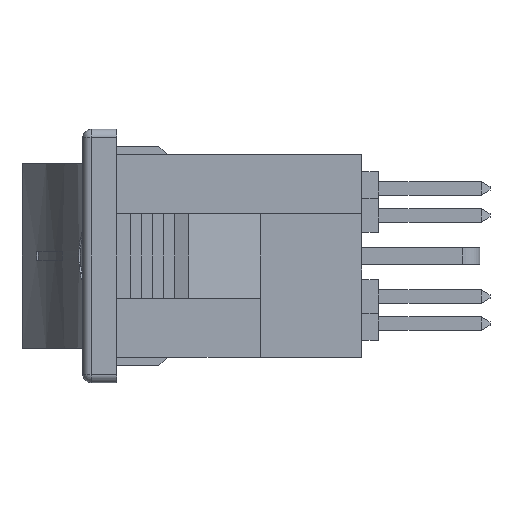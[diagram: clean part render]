
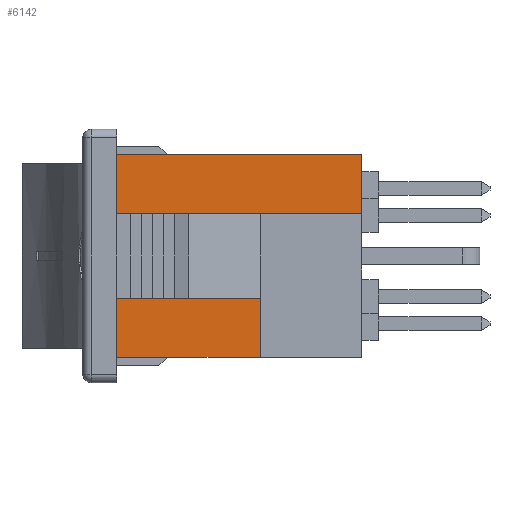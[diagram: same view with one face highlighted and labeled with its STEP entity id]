
A CAD part, left-side view. The second image highlights one B-rep face of the part: STEP entity #6142.
In plain terms, the highlighted planar face has unit normal (-1, 0, 0).
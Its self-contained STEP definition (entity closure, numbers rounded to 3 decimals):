
#288 = DIRECTION ( 'NONE',  ( 0., 0., -1. ) ) ;
#423 = CARTESIAN_POINT ( 'NONE',  ( -8.75, -10.5, -6. ) ) ;
#1098 = CARTESIAN_POINT ( 'NONE',  ( -8.75, -16.5, 2.5 ) ) ;
#1229 = VECTOR ( 'NONE', #16029, 1000. ) ;
#1432 = LINE ( 'NONE', #12261, #15447 ) ;
#2208 = AXIS2_PLACEMENT_3D ( 'NONE', #4011, #8326, #288 ) ;
#2941 = LINE ( 'NONE', #6818, #9941 ) ;
#3012 = EDGE_CURVE ( 'NONE', #16359, #17068, #5866, .T. ) ;
#3243 = LINE ( 'NONE', #3508, #17021 ) ;
#3508 = CARTESIAN_POINT ( 'NONE',  ( -8.75, -16.5, -6. ) ) ;
#3776 = LINE ( 'NONE', #11699, #1229 ) ;
#4011 = CARTESIAN_POINT ( 'NONE',  ( -8.75, -16.5, 6. ) ) ;
#4394 = VERTEX_POINT ( 'NONE', #13346 ) ;
#4561 = ORIENTED_EDGE ( 'NONE', *, *, #4728, .F. ) ;
#4728 = EDGE_CURVE ( 'NONE', #14959, #15237, #10738, .T. ) ;
#5712 = VERTEX_POINT ( 'NONE', #13681 ) ;
#5866 = LINE ( 'NONE', #17219, #11548 ) ;
#6142 = ADVANCED_FACE ( 'NONE', ( #16254 ), #12278, .F. ) ;
#6156 = ORIENTED_EDGE ( 'NONE', *, *, #9409, .F. ) ;
#6417 = DIRECTION ( 'NONE',  ( 0., -1., 0. ) ) ;
#6818 = CARTESIAN_POINT ( 'NONE',  ( -8.75, -2., 6. ) ) ;
#7480 = EDGE_CURVE ( 'NONE', #15237, #5712, #1432, .T. ) ;
#7812 = ORIENTED_EDGE ( 'NONE', *, *, #7480, .F. ) ;
#8313 = ORIENTED_EDGE ( 'NONE', *, *, #3012, .T. ) ;
#8326 = DIRECTION ( 'NONE',  ( 1., 0., 0. ) ) ;
#8622 = DIRECTION ( 'NONE',  ( 0., 0., 1. ) ) ;
#8641 = EDGE_CURVE ( 'NONE', #5712, #17068, #3776, .T. ) ;
#9106 = EDGE_CURVE ( 'NONE', #4394, #15886, #2941, .T. ) ;
#9409 = EDGE_CURVE ( 'NONE', #4394, #14959, #12046, .T. ) ;
#9546 = ORIENTED_EDGE ( 'NONE', *, *, #9106, .T. ) ;
#9941 = VECTOR ( 'NONE', #10703, 1000. ) ;
#10099 = DIRECTION ( 'NONE',  ( 0., -1., 0. ) ) ;
#10571 = DIRECTION ( 'NONE',  ( 0., 0., -1. ) ) ;
#10703 = DIRECTION ( 'NONE',  ( 0., 0., -1. ) ) ;
#10738 = LINE ( 'NONE', #17360, #12408 ) ;
#11548 = VECTOR ( 'NONE', #8622, 1000. ) ;
#11699 = CARTESIAN_POINT ( 'NONE',  ( -8.75, -10.5, 2.5 ) ) ;
#11972 = CARTESIAN_POINT ( 'NONE',  ( -8.75, -16.5, 6. ) ) ;
#12046 = LINE ( 'NONE', #11972, #17289 ) ;
#12261 = CARTESIAN_POINT ( 'NONE',  ( -8.75, -16.5, 2.5 ) ) ;
#12278 = PLANE ( 'NONE',  #2208 ) ;
#12408 = VECTOR ( 'NONE', #10571, 1000. ) ;
#12577 = ORIENTED_EDGE ( 'NONE', *, *, #8641, .F. ) ;
#13346 = CARTESIAN_POINT ( 'NONE',  ( -8.75, -2., 6. ) ) ;
#13364 = ORIENTED_EDGE ( 'NONE', *, *, #13917, .T. ) ;
#13560 = CARTESIAN_POINT ( 'NONE',  ( -8.75, -16.5, 6. ) ) ;
#13681 = CARTESIAN_POINT ( 'NONE',  ( -8.75, -10.5, 2.5 ) ) ;
#13687 = DIRECTION ( 'NONE',  ( 0., 1., 0. ) ) ;
#13917 = EDGE_CURVE ( 'NONE', #15886, #16359, #3243, .T. ) ;
#14315 = CARTESIAN_POINT ( 'NONE',  ( -8.75, -10.5, -2.5 ) ) ;
#14959 = VERTEX_POINT ( 'NONE', #13560 ) ;
#15237 = VERTEX_POINT ( 'NONE', #1098 ) ;
#15296 = EDGE_LOOP ( 'NONE', ( #8313, #12577, #7812, #4561, #6156, #9546, #13364 ) ) ;
#15447 = VECTOR ( 'NONE', #13687, 1000. ) ;
#15886 = VERTEX_POINT ( 'NONE', #16230 ) ;
#16029 = DIRECTION ( 'NONE',  ( 0., 0., -1. ) ) ;
#16230 = CARTESIAN_POINT ( 'NONE',  ( -8.75, -2., -6. ) ) ;
#16254 = FACE_OUTER_BOUND ( 'NONE', #15296, .T. ) ;
#16359 = VERTEX_POINT ( 'NONE', #423 ) ;
#17021 = VECTOR ( 'NONE', #10099, 1000. ) ;
#17068 = VERTEX_POINT ( 'NONE', #14315 ) ;
#17219 = CARTESIAN_POINT ( 'NONE',  ( -8.75, -10.5, -12.021 ) ) ;
#17289 = VECTOR ( 'NONE', #6417, 1000. ) ;
#17360 = CARTESIAN_POINT ( 'NONE',  ( -8.75, -16.5, 6. ) ) ;
